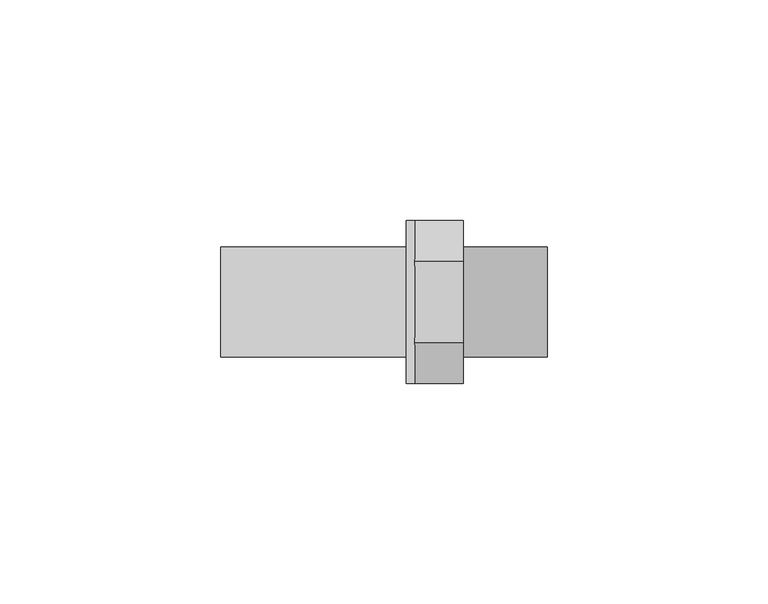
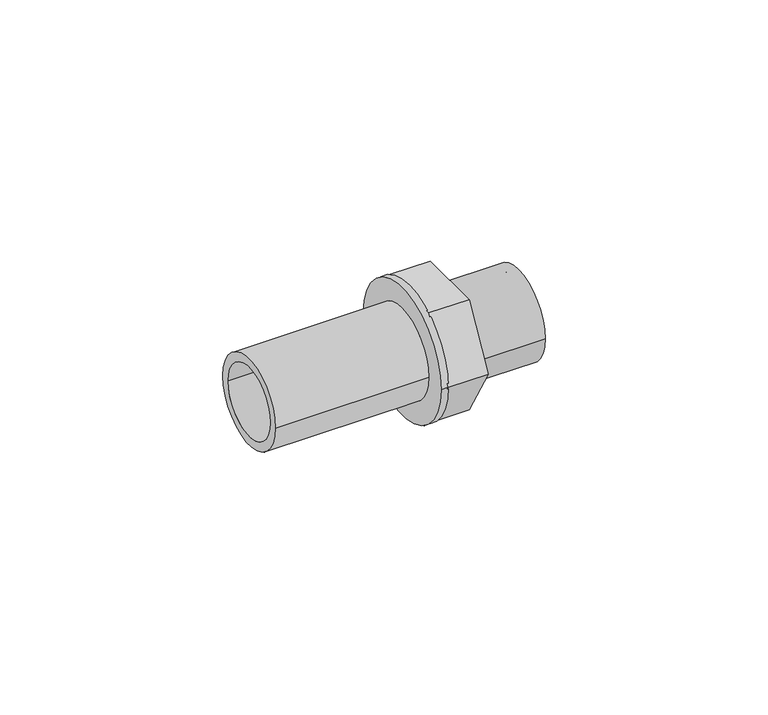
"""IFC4 building model written with IfcOpenShell, lengths in millimetres: pipe fitting geometry, 01011312 : Traversée de paroi en PVC."""

import ifcopenshell
import ifcopenshell.guid

model = None  # the IFC model being written
_history = None  # IfcOwnerHistory: only IFC2X3 demands one
_inside = {}  # id of a spatial element -> (the spatial element, [elements in it])
_under = {}  # id of a project, library or spatial element -> (it, [spatial elements below it])
_declared = {}  # id of a project -> (the project, [libraries it declares])
_typed = {}  # id of a type object -> (the type object, [elements of that type])
_made_of = {}  # id of a material, layer set ... -> (it, [elements and type objects made of it])


def new_model(schema):
    """Start an empty IFC model of exactly this schema.

    Asked for "IFC4X3", IfcOpenShell would pick the latest addendum, in which some entities
    have other attributes; the version numbers below select the first issue.
    IFC2X3 requires an IfcOwnerHistory on every rooted entity: one is made here for all.
    """
    global model, _history
    if schema == "IFC4X3":
        model = ifcopenshell.file(schema_version=(4, 3, 0, 0))
    else:
        model = ifcopenshell.file(schema=schema)
    _inside.clear()
    _under.clear()
    _declared.clear()
    _typed.clear()
    _made_of.clear()
    _history = None
    if model.schema == "IFC2X3":
        org = make("IfcOrganization", Name="unknown")
        user = make(
            "IfcPersonAndOrganization",
            ThePerson=make("IfcPerson", FamilyName="unknown"),
            TheOrganization=org,
        )
        app = make(
            "IfcApplication",
            ApplicationDeveloper=org,
            Version="unknown",
            ApplicationFullName="unknown",
            ApplicationIdentifier="unknown",
        )
        _history = make(
            "IfcOwnerHistory",
            OwningUser=user,
            OwningApplication=app,
            ChangeAction="ADDED",
            CreationDate=0,
        )
    return model


def make(cls, **values):
    """One entity of the class cls with the attributes given. An attribute that is None is left unset."""
    return model.create_entity(
        cls, **{name: value for name, value in values.items() if value is not None}
    )


def rooted(cls, **values):
    """An entity with a GlobalId (a new one), such as an element, a storey or a relation."""
    return make(cls, GlobalId=ifcopenshell.guid.new(), OwnerHistory=_history, **values)


def si_unit(unit_type, name, prefix=None):
    """IfcSIUnit, for example si_unit("LENGTHUNIT", "METRE", prefix="MILLI")."""
    return make("IfcSIUnit", UnitType=unit_type, Prefix=prefix, Name=name)


def assignment(units):
    """IfcUnitAssignment: the units of a project."""
    return None if units is None else make("IfcUnitAssignment", Units=units)


def point(xyz):
    """IfcCartesianPoint."""
    return None if xyz is None else make("IfcCartesianPoint", Coordinates=xyz)


def direction(xyz):
    """IfcDirection."""
    return None if xyz is None else make("IfcDirection", DirectionRatios=xyz)


def frame(location, z_axis=None, x_axis=None):
    """IfcAxis2Placement3D, a coordinate frame: its origin and axes. An axis left out is left unset."""
    return make(
        "IfcAxis2Placement3D",
        Location=point(location),
        Axis=direction(z_axis),
        RefDirection=direction(x_axis),
    )


def origin():
    """The frame at (0, 0, 0) with its axes left unset."""
    return frame((0.0, 0.0, 0.0))


def place(relative_to, where):
    """IfcLocalPlacement: puts the frame where relative to a parent placement (None: the world)."""
    return make(
        "IfcLocalPlacement", PlacementRelTo=relative_to, RelativePlacement=where
    )


def context(
    kind, dimensions, precision=None, world=None, true_north=None, identifier=None
):
    """IfcGeometricRepresentationContext, for example the 3D "Model" context."""
    return make(
        "IfcGeometricRepresentationContext",
        ContextIdentifier=identifier,
        ContextType=kind,
        CoordinateSpaceDimension=dimensions,
        Precision=precision,
        WorldCoordinateSystem=world,
        TrueNorth=true_north,
    )


def project(units=None, contexts=None):
    """IfcProject with its units and contexts."""
    return rooted(
        "IfcProject",
        Name="project",
        RepresentationContexts=contexts,
        UnitsInContext=assignment(units),
    )


def spatial(cls, under=None, at=None, **own):
    """A site, building, storey or space (cls), placed at a placement, below another one or the project."""
    s = rooted(cls, ObjectPlacement=at, **own)
    if under is not None:
        _under.setdefault(under.id(), (under, []))[1].append(s)
    return s


def polyline(points):
    """IfcPolyline through the points."""
    return make("IfcPolyline", Points=[point(p) for p in points])


def circle_curve(where, radius):
    """IfcCircle in the frame where."""
    return make("IfcCircle", Position=where, Radius=radius)


def shape(context_of_items, identifier, shape_type, items):
    """IfcShapeRepresentation: the items that make up one representation, for example the "Body"."""
    return make(
        "IfcShapeRepresentation",
        ContextOfItems=context_of_items,
        RepresentationIdentifier=identifier,
        RepresentationType=shape_type,
        Items=items,
    )


def source(mapping_origin, context_of_items, identifier, shape_type, items):
    """IfcRepresentationMap: a shape defined once, which mapped items show again and again."""
    return make(
        "IfcRepresentationMap",
        MappingOrigin=mapping_origin,
        MappedRepresentation=shape(context_of_items, identifier, shape_type, items),
    )


def transform(
    local_origin,
    x_axis=None,
    y_axis=None,
    z_axis=None,
    scale=None,
    scale2=None,
    scale3=None,
    uniform=True,
):
    """IfcCartesianTransformationOperator3D, or its non-uniform kind. x_axis, y_axis, z_axis: its Axis1, 2, 3."""
    if uniform:
        return make(
            "IfcCartesianTransformationOperator3D",
            Axis1=direction(x_axis),
            Axis2=direction(y_axis),
            LocalOrigin=point(local_origin),
            Scale=scale,
            Axis3=direction(z_axis),
        )
    return make(
        "IfcCartesianTransformationOperator3DnonUniform",
        Axis1=direction(x_axis),
        Axis2=direction(y_axis),
        LocalOrigin=point(local_origin),
        Scale=scale,
        Axis3=direction(z_axis),
        Scale2=scale2,
        Scale3=scale3,
    )


def mapped(mapping_source, mapping_target):
    """IfcMappedItem: shows the shape of a source again, moved by a transform."""
    return make(
        "IfcMappedItem", MappingSource=mapping_source, MappingTarget=mapping_target
    )


def made_of(thing, what):
    """Note that an element or type object is made of a material, layer set ...; save() writes the relation."""
    if what is not None:
        _made_of.setdefault(what.id(), (what, []))[1].append(thing)
    return thing


def element(
    cls,
    number,
    at=None,
    inside=None,
    cuts=None,
    type_object=None,
    material=None,
    context=None,
    identifier="Body",
    shape_type=None,
    held_by="IfcProductDefinitionShape",
    body=None,
    shapes=None,
    **own,
):
    """One element of the class cls, such as IfcWall. Its Tag is "e" and its number.

    at: its placement. inside: the storey or other place that contains it. cuts: it is an
    opening in that element (IfcRelVoidsElement). A single representation is given by context,
    identifier, shape_type and body (its items); several are given by shapes. held_by: the class
    of the entity that holds the representations. save() writes the other relations.
    """
    e = rooted(cls, Tag="e%d" % number, ObjectPlacement=at, **own)
    if body is not None:
        shapes = [shape(context, identifier, shape_type, body)]
    if shapes is not None:
        e.Representation = make(held_by, Representations=shapes)
    if inside is not None:
        _inside.setdefault(inside.id(), (inside, []))[1].append(e)
    if cuts is not None:
        rooted(
            "IfcRelVoidsElement", RelatingBuildingElement=cuts, RelatedOpeningElement=e
        )
    if type_object is not None:
        _typed.setdefault(type_object.id(), (type_object, []))[1].append(e)
    return made_of(e, material)


def aggregate(whole, parts):
    """IfcRelAggregates: a whole, such as a stair, and the parts it consists of."""
    return rooted("IfcRelAggregates", RelatingObject=whole, RelatedObjects=parts)


def save(model, path):
    """Write the relations noted so far, then the file.

    IfcRelAggregates (storeys below a building ...), IfcRelContainedInSpatialStructure (elements
    in a storey), IfcRelDefinesByType, IfcRelAssociatesMaterial and IfcRelDeclares: one each for
    every whole, place, type object, material and project.
    """
    for whole, parts in _under.values():
        aggregate(whole, parts)
    for where, things in _inside.values():
        rooted(
            "IfcRelContainedInSpatialStructure",
            RelatedElements=things,
            RelatingStructure=where,
        )
    for kind, things in _typed.values():
        rooted("IfcRelDefinesByType", RelatedObjects=things, RelatingType=kind)
    for what, things in _made_of.values():
        rooted("IfcRelAssociatesMaterial", RelatedObjects=things, RelatingMaterial=what)
    for by, libraries in _declared.values():
        rooted("IfcRelDeclares", RelatingContext=by, RelatedDefinitions=libraries)
    model.write(path)


def plane_surface(at):
    """IfcPlane: the flat surface through the origin of the frame at, square to its z axis."""
    return make("IfcPlane", Position=at)


def cylinder_surface(at, radius):
    """IfcCylindricalSurface: all points at the distance radius from the z axis of the frame at."""
    return make("IfcCylindricalSurface", Position=at, Radius=radius)


def revolved_surface(curve, axis_point, axis_direction):
    """IfcSurfaceOfRevolution: the curve turned about the line through axis_point along axis_direction."""
    return make(
        "IfcSurfaceOfRevolution",
        SweptCurve=make("IfcArbitraryOpenProfileDef", ProfileType="CURVE", Curve=curve),
        AxisPosition=make("IfcAxis1Placement", Location=point(axis_point), Axis=direction(axis_direction)),
    )


def advanced_brep(points, edges, surfaces, faces):
    """IfcAdvancedBrep: a solid bounded by faces that lie on surfaces and meet in shared edges.

    An edge is (start, end): straight between two places in points (the first is 0);
    or (start, end, curve); or (start, end, curve, False) where it runs against its curve.
    A face is (place in surfaces, loops), or (place, loops, False) where it looks against
    its surface's normal. A loop lists edges by number (the first is 1), with a minus sign
    where the edge is run from its end to its start. The first loop is the outer one.
    """
    corners = [point(p) for p in points]
    vertices = [make("IfcVertexPoint", VertexGeometry=c) for c in corners]
    made = []
    for start, end, *more in edges:
        made.append(
            make(
                "IfcEdgeCurve",
                EdgeStart=vertices[start],
                EdgeEnd=vertices[end],
                EdgeGeometry=more[0] if more else make("IfcPolyline", Points=[corners[start], corners[end]]),
                SameSense=more[1] if len(more) > 1 else True,
            )
        )
    hull = []
    for where, loops, *sense in faces:
        bounds = []
        for j, loop in enumerate(loops):
            ring = [make("IfcOrientedEdge", EdgeElement=made[abs(k) - 1], Orientation=k > 0) for k in loop]
            bounds.append(
                make(
                    "IfcFaceOuterBound" if j == 0 else "IfcFaceBound",
                    Bound=make("IfcEdgeLoop", EdgeList=ring),
                    Orientation=True,
                )
            )
        hull.append(make("IfcAdvancedFace", Bounds=bounds, FaceSurface=surfaces[where], SameSense=sense[0] if sense else True))
    return make("IfcAdvancedBrep", Outer=make("IfcClosedShell", CfsFaces=hull))


def pipe_fitting_822dd5d1(model_context):
    return source(origin(), model_context, "Body", "AdvancedBrep", [
        advanced_brep(
        [(18.0, -9.2376043, 16.0), (18.0, -18.4752086, 0.0), (18.0, -9.2376043, -16.0), (18.0, 9.2376043, -16.0), (18.0, 18.4752086, 0.0), (18.0, 9.2376043, 16.0), (18.0, -12.5, 0.0), (18.0, 12.5, 0.0), (18.0, 10.0, 0.0), (18.0, -10.0, 0.0), (7.0, -9.2376043, 16.0), (7.0, -18.4752086, 0.0), (7.0, -9.2376043, -16.0), (7.0, 9.2376043, -16.0), (7.0, 18.4752086, 0.0), (7.0, 9.2376043, 16.0), (37.0, -12.5, 0.0), (37.0, 12.5, 0.0), (37.0, -10.0, 0.0), (37.0, 10.0, 0.0), (-37.0, 12.5, 0.0), (-37.0, -12.5, 0.0), (-37.0, 10.0, 0.0), (-37.0, -10.0, 0.0), (5.0, -12.5, 0.0), (5.0, 12.5, 0.0), (5.0, -18.4752086, 0.0), (5.0, 18.4752086, 0.0), (5.0, -10.0, 0.0), (5.0, 10.0, 0.0)],
        [
            (0, 1),
            (1, 2),
            (2, 3),
            (3, 4),
            (4, 5),
            (5, 0),
            (6, 7, circle_curve(frame((18.0, 0.0, 0.0), z_axis=(-1.0, 0.0, 0.0), x_axis=(0.0, 1.0, 0.0)), 12.5)),
            (7, 6, circle_curve(frame((18.0, 0.0, 0.0), z_axis=(-1.0, 0.0, 0.0), x_axis=(0.0, 1.0, 0.0)), 12.5)),
            (8, 9, circle_curve(frame((18.0, 0.0, 0.0), z_axis=(1.0, 0.0, 0.0), x_axis=(0.0, 1.0, 0.0)), 10.0)),
            (9, 8, circle_curve(frame((18.0, 0.0, 0.0), z_axis=(1.0, 0.0, 0.0), x_axis=(0.0, 1.0, 0.0)), 10.0)),
            (0, 10),
            (10, 11),
            (11, 1),
            (11, 12),
            (12, 2),
            (12, 13),
            (13, 3),
            (13, 14),
            (14, 4),
            (14, 15),
            (15, 5),
            (15, 10),
            (16, 17, circle_curve(frame((37.0, 0.0, 0.0), z_axis=(1.0, 0.0, 0.0), x_axis=(0.0, 1.0, 0.0)), 12.5)),
            (17, 16, circle_curve(frame((37.0, 0.0, 0.0), z_axis=(1.0, 0.0, 0.0), x_axis=(0.0, 1.0, 0.0)), 12.5)),
            (18, 19, circle_curve(frame((37.0, 0.0, 0.0), z_axis=(-1.0, 0.0, 0.0), x_axis=(0.0, 1.0, 0.0)), 10.0)),
            (19, 18, circle_curve(frame((37.0, 0.0, 0.0), z_axis=(-1.0, 0.0, 0.0), x_axis=(0.0, 1.0, 0.0)), 10.0)),
            (17, 7),
            (6, 16),
            (20, 21, circle_curve(frame((-37.0, 0.0, 0.0), z_axis=(-1.0, 0.0, 0.0), x_axis=(0.0, -1.0, 0.0)), 12.5)),
            (21, 20, circle_curve(frame((-37.0, 0.0, 0.0), z_axis=(-1.0, 0.0, 0.0), x_axis=(0.0, -1.0, 0.0)), 12.5)),
            (22, 23, circle_curve(frame((-37.0, 0.0, 0.0), z_axis=(1.0, 0.0, 0.0), x_axis=(0.0, -1.0, 0.0)), 10.0)),
            (23, 22, circle_curve(frame((-37.0, 0.0, 0.0), z_axis=(1.0, 0.0, 0.0), x_axis=(0.0, -1.0, 0.0)), 10.0)),
            (21, 24),
            (24, 25, circle_curve(frame((5.0, 0.0, 0.0), z_axis=(-1.0, 0.0, 0.0), x_axis=(0.0, -1.0, 0.0)), 12.5)),
            (25, 20),
            (25, 24, circle_curve(frame((5.0, 0.0, 0.0), z_axis=(-1.0, 0.0, 0.0), x_axis=(0.0, -1.0, 0.0)), 12.5)),
            (10, 11, circle_curve(frame((7.0, 0.0, 0.0), z_axis=(1.0, 0.0, 0.0), x_axis=(0.0, 1.0, 0.0)), 18.4752086)),
            (14, 15, circle_curve(frame((7.0, 0.0, 0.0), z_axis=(1.0, 0.0, 0.0), x_axis=(0.0, 1.0, 0.0)), 18.4752086)),
            (15, 10, circle_curve(frame((7.0, 0.0, 0.0), z_axis=(1.0, 0.0, 0.0), x_axis=(0.0, 1.0, 0.0)), 18.4752086)),
            (13, 14, circle_curve(frame((7.0, 0.0, 0.0), z_axis=(1.0, 0.0, 0.0), x_axis=(0.0, 1.0, 0.0)), 18.4752086)),
            (11, 12, circle_curve(frame((7.0, 0.0, 0.0), z_axis=(1.0, 0.0, 0.0), x_axis=(0.0, 1.0, 0.0)), 18.4752086)),
            (12, 13, circle_curve(frame((7.0, 0.0, 0.0), z_axis=(1.0, 0.0, 0.0), x_axis=(0.0, 1.0, 0.0)), 18.4752086)),
            (26, 27, circle_curve(frame((5.0, 0.0, 0.0), z_axis=(-1.0, 0.0, 0.0), x_axis=(0.0, 1.0, 0.0)), 18.4752086)),
            (27, 26, circle_curve(frame((5.0, 0.0, 0.0), z_axis=(-1.0, 0.0, 0.0), x_axis=(0.0, 1.0, 0.0)), 18.4752086)),
            (28, 29, circle_curve(frame((5.0, 0.0, 0.0), z_axis=(-1.0, 0.0, 0.0), x_axis=(0.0, -1.0, 0.0)), 10.0)),
            (29, 28, circle_curve(frame((5.0, 0.0, 0.0), z_axis=(-1.0, 0.0, 0.0), x_axis=(0.0, -1.0, 0.0)), 10.0)),
            (27, 14),
            (11, 26),
            (18, 9),
            (8, 19),
            (22, 29),
            (28, 23),
        ],
        [
            plane_surface(frame((18.0, -9.2376043, 16.0), z_axis=(1.0000000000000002, 0.0, 0.0), x_axis=(0.0, -0.5000000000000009, -0.8660254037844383))),
            plane_surface(frame((18.0, -9.2376043, 16.0), z_axis=(0.0, -0.8660254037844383, 0.5000000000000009), x_axis=(-1.0, 0.0, 0.0))),
            plane_surface(frame((18.0, -18.4752086, 0.0), z_axis=(0.0, -0.8660254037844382, -0.500000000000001), x_axis=(-1.0, 0.0, 0.0))),
            plane_surface(frame((18.0, -9.2376043, -16.0), z_axis=(0.0, 0.0, -1.0), x_axis=(-1.0, 0.0, 0.0))),
            plane_surface(frame((18.0, 9.2376043, -16.0), z_axis=(0.0, 0.8660254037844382, -0.500000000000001), x_axis=(-1.0, 0.0, 0.0))),
            plane_surface(frame((18.0, 18.4752086, 0.0), z_axis=(0.0, 0.866025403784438, 0.5000000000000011), x_axis=(-1.0, 0.0, 0.0))),
            plane_surface(frame((18.0, 9.2376043, 16.0), z_axis=(0.0, 0.0, 1.0), x_axis=(-1.0, 0.0, 0.0))),
            plane_surface(frame((37.0, 0.0, 0.0), z_axis=(1.0, 0.0, 0.0), x_axis=(0.0, 0.0, 1.0))),
            cylinder_surface(frame((18.0, 0.0, 0.0), z_axis=(-1.0, 0.0, 0.0), x_axis=(0.0, 1.0, 0.0)), 12.5),
            plane_surface(frame((-37.0, 0.0, 0.0), z_axis=(-1.0, 0.0, 0.0), x_axis=(0.0, 0.0, 1.0))),
            cylinder_surface(frame((5.0, 0.0, 0.0), z_axis=(1.0, 0.0, 0.0), x_axis=(0.0, -1.0, 0.0)), 12.5),
            plane_surface(frame((7.0, 18.4752086, 0.0), z_axis=(1.0, 0.0, 0.0), x_axis=(0.0, 0.0, 1.0))),
            plane_surface(frame((5.0, 18.4752086, 0.0), z_axis=(-1.0, 0.0, 0.0), x_axis=(0.0, 0.0, -1.0))),
            cylinder_surface(frame((5.0, 0.0, 0.0), z_axis=(1.0, 0.0, 0.0), x_axis=(0.0, 1.0, 0.0)), 18.4752086),
            revolved_surface(polyline([(37.0, 10.0, 0.0), (18.0, 10.0, 0.0)]), (18.0, 0.0, 0.0), (1.0, 0.0, 0.0)),
            revolved_surface(polyline([(-37.0, -10.0, 0.0), (5.0, -10.0, 0.0)]), (5.0, 0.0, 0.0), (-1.0, 0.0, 0.0)),
        ],
        [
            (0, [[1, 2, 3, 4, 5, 6], [7, 8]]),
            (0, [[9, 10]]),
            (1, [[-1, 11, 12, 13]]),
            (2, [[-2, -13, 14, 15]]),
            (3, [[-3, -15, 16, 17]]),
            (4, [[-4, -17, 18, 19]]),
            (5, [[-5, -19, 20, 21]]),
            (6, [[-6, -21, 22, -11]]),
            (7, [[23, 24], [25, 26]]),
            (8, [[-24, 27, -7, 28]]),
            (8, [[-23, -28, -8, -27]]),
            (9, [[29, 30], [31, 32]]),
            (10, [[-30, 33, 34, 35]]),
            (10, [[-29, -35, 36, -33]]),
            (11, [[37, -12]]),
            (11, [[38, -20]]),
            (11, [[39, -22]]),
            (11, [[40, -18]]),
            (11, [[41, -14]]),
            (11, [[42, -16]]),
            (12, [[43, 44], [-34, -36]]),
            (12, [[45, 46]]),
            (13, [[-44, 47, -40, -42, -41, 48]]),
            (13, [[-43, -48, -37, -39, -38, -47]]),
            (14, [[-25, 49, -9, 50]]),
            (14, [[-26, -50, -10, -49]]),
            (15, [[-31, 51, -45, 52]]),
            (15, [[-32, -52, -46, -51]]),
        ],
    ),
    ])


if __name__ == "__main__":
    model = new_model("IFC4")
    model_context = context("Model", 3, world=origin())
    ifc_project = project(units=[si_unit("LENGTHUNIT", "METRE", prefix="MILLI")], contexts=[model_context])
    site = spatial("IfcSite", under=ifc_project)
    building = spatial("IfcBuilding", under=site)
    placement = place(None, origin())
    pipe_fitting_shape = pipe_fitting_822dd5d1(model_context)
    element("IfcPipeFitting", 1, ObjectType="01011312 : Traversée de paroi en PVC", at=placement, inside=building, context=model_context, shape_type="MappedRepresentation", body=[
        mapped(pipe_fitting_shape, transform((0.0, 0.0, 0.0), x_axis=(1.0, 0.0, 0.0), y_axis=(0.0, 1.0, 0.0), z_axis=(0.0, 0.0, 1.0))),
    ])
    save(model, "model.ifc")
